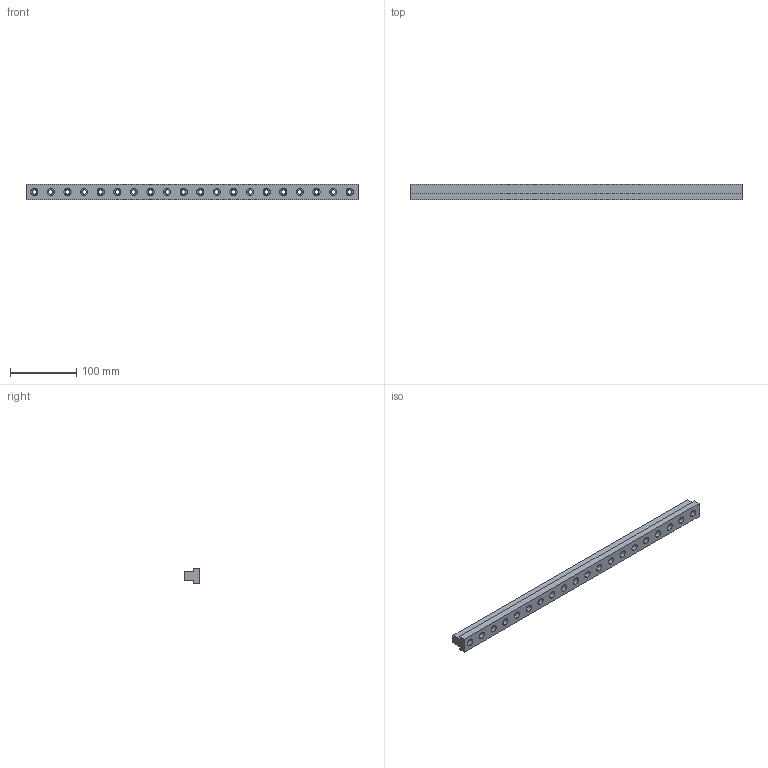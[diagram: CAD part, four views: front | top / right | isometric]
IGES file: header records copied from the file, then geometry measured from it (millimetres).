
Start section: START RECORD GO HERE.
Global section: file name: CF-GT-14-500.igs; native system: DASSAULT SYSTEMES CATIA V5 R20 - www.3ds.com; preprocessor: CATIA Version 5 Release 20 ; author: Utente; organization: NB04-ASUS; date: 20210221.171616; units: millimetre
Bounding box: 500 x 24 x 24 mm (x, y, z)
Surface area: 59336 mm2 (no closed solid volume)
Topology: 0 solids, 0 shells, 110 faces, 848 edges, 848 vertices
Faces by surface type: revolution 80, plane 30
